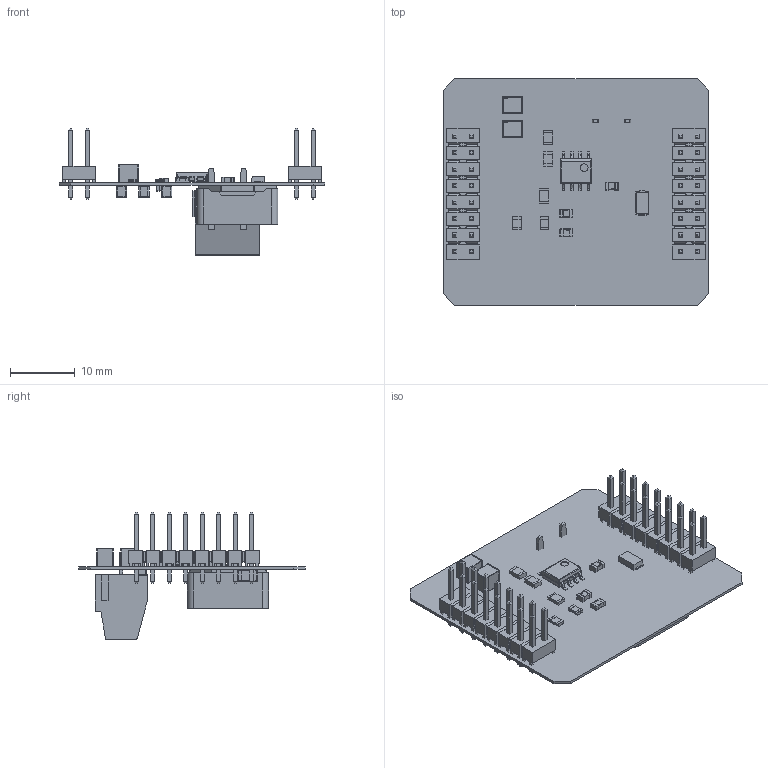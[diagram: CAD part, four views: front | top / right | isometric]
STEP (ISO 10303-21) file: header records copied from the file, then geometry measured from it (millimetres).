
FILE_DESCRIPTION(('Open CASCADE Model'),'2;1');
FILE_NAME('Open CASCADE Shape Model','2022-05-04T04:09:59',('Author'),( 'Open CASCADE'),'Open CASCADE STEP processor 6.8','Open CASCADE 6.8' ,'Unknown');
FILE_SCHEMA(('AUTOMOTIVE_DESIGN { 1 0 10303 214 1 1 1 1 }'));
Length unit declared in the file: millimetre
Products named in the file (67): PCB; Board; Open CASCADE STEP translator 6.8 1.1.1; D1; 6167314064; P2; TSW-108-07-T-D; _TSW-108-07-T-D_body; _T-1S6-07-TSW-1-07-8-D; P1; J1; 6167313984; U1; SOIC-8akaD0008AakaM08A; M08A_ASM_82_ASM; BODY_M08A_35; LEAD_M08A_57; TIEBAR_M08A_2_ASM; MANIFOLD_SOLID_BREP_2784; MANIFOLD_SOLID_BREP_2935; MANIFOLD_SOLID_BREP_3086; MANIFOLD_SOLID_BREP_3237; R6; 6487009680; Extruded; 6487009520; R5; 6167313824; R1; 6487009280; 6487009120; R2; 6487010080; 6487009920; R4; 6167313664; L1; 6167313744; C9; Cap_TDK_C3216X5R1A686M160AC_eec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
Assembly tree (86 placements, depth 6):
  PCB
    Board
      Open CASCADE STEP translator 6.8 1.1.1
    D1
      6167314064
    P2
      TSW-108-07-T-D
        _TSW-108-07-T-D_body
        _T-1S6-07-TSW-1-07-8-D
    P1
      TSW-108-07-T-D
        _TSW-108-07-T-D_body
        _T-1S6-07-TSW-1-07-8-D
    J1
      6167313984
    U1
      SOIC-8akaD0008AakaM08A
        M08A_ASM_82_ASM
          BODY_M08A_35
          LEAD_M08A_57  x8
          TIEBAR_M08A_2_ASM
            MANIFOLD_SOLID_BREP_2784
            MANIFOLD_SOLID_BREP_2935
            MANIFOLD_SOLID_BREP_3086
            MANIFOLD_SOLID_BREP_3237
    R6
      6487009680
        Extruded
      6487009520  x2
        Extruded
    R5
      6167313824
    R1
      6487009280
        Extruded
      6487009120  x2
        Extruded
    R2
      6487010080  x2
        Extruded
      6487009920
        Extruded
    R4
      6167313664
    L1
      6167313744
    C9
      Cap_TDK_C3216X5R1A686M160AC_eec
        1
        2
        TDK_Logo
    C8
      Cap_TDK_C3216X5R1A686M160AC_eec
        1
        2
        TDK_Logo
    C7
      Cap_TDK_C3216X5R1A686M160AC_eec
        1
        2
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Bounding box: 41 x 35 x 19.61 mm (x, y, z)
Volume: 2618.5 mm3; surface area: 7511 mm2
Topology: 143 solids, 144 shells, 3354 faces, 10269 edges, 9266 vertices
Faces by surface type: plane 2457, bspline 395, cylinder 378, sphere 106, torus 16, cone 2
Entity records: 65880 total; most frequent: CARTESIAN_POINT 13966, ORIENTED_EDGE 8660, DIRECTION 7809, EDGE_CURVE 4330, LINE 3491, VECTOR 3491, VERTEX_POINT 2726, AXIS2_PLACEMENT_3D 2159
